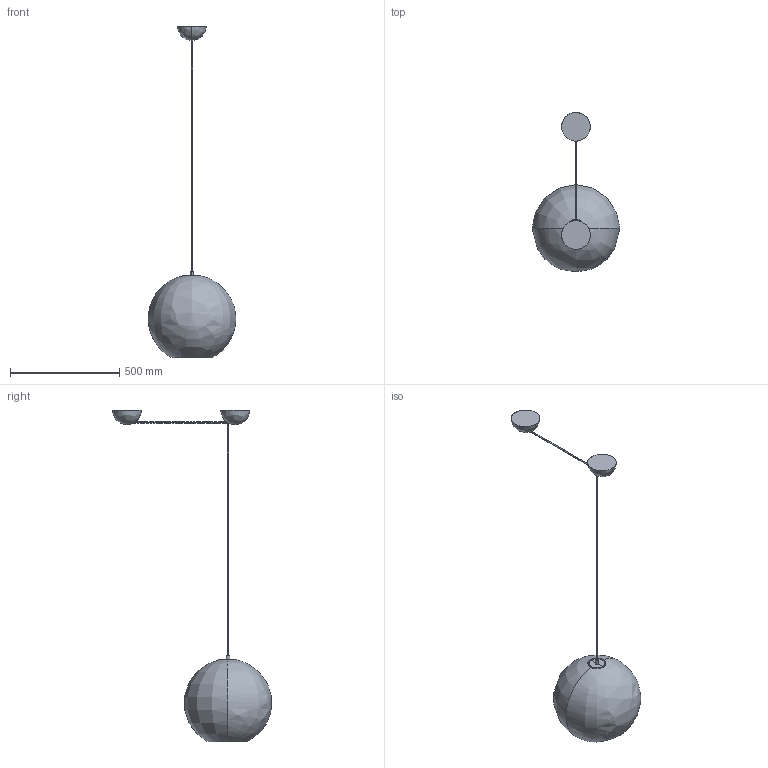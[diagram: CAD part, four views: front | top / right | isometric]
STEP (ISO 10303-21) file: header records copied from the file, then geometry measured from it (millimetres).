
FILE_DESCRIPTION(/* description */ (''),/* implementation_level */ '2;1');
FILE_NAME(/* name */ 'aggregato decentrato sferico d40',/* time_stamp */ '2016-05-16T10:28:44+02:00',/* author */ (''),/* organization */ (''),/* preprocessor_version */ 'ST-DEVELOPER v10',/* originating_system */ '',/* authorisation */ '');
FILE_SCHEMA (('CONFIG_CONTROL_DESIGN'));
Length unit declared in the file: millimetre
Products named in the file (2): 1; 2
Assembly tree (1 placements, depth 2):
  1
    2
Bounding box: 401.8 x 726.87 x 1518.92 mm (x, y, z)
Surface area: 637647.6 mm2 (no closed solid volume)
Topology: 0 solids, 18 shells, 36 faces, 98 edges, 73 vertices
Faces by surface type: bspline 24, plane 12
Entity records: 1584 total; most frequent: CARTESIAN_POINT 912, ORIENTED_EDGE 128, EDGE_CURVE 92, VERTEX_POINT 73, ADVANCED_FACE 36, FACE_OUTER_BOUND 36, EDGE_LOOP 36, DIRECTION 22
